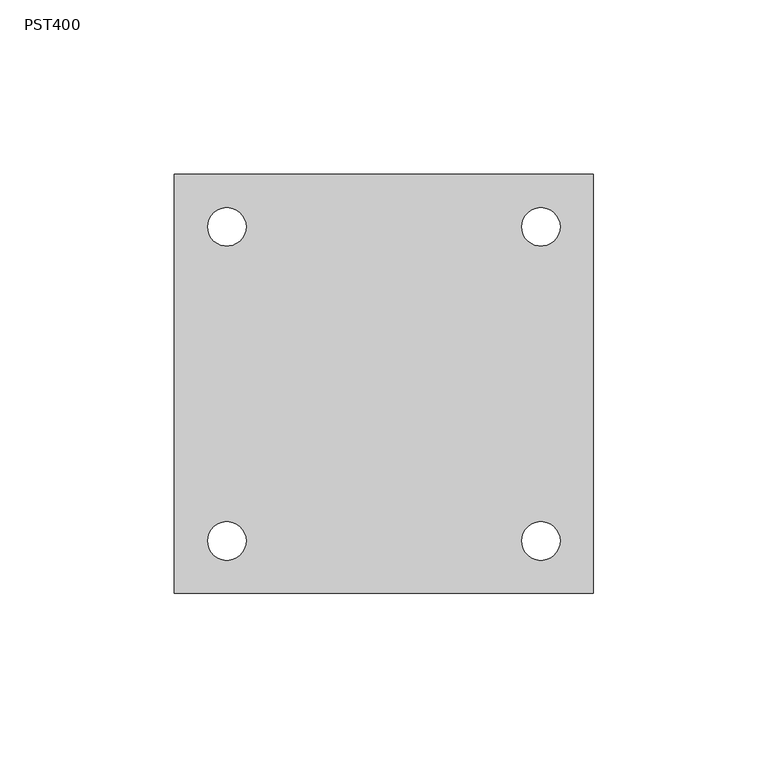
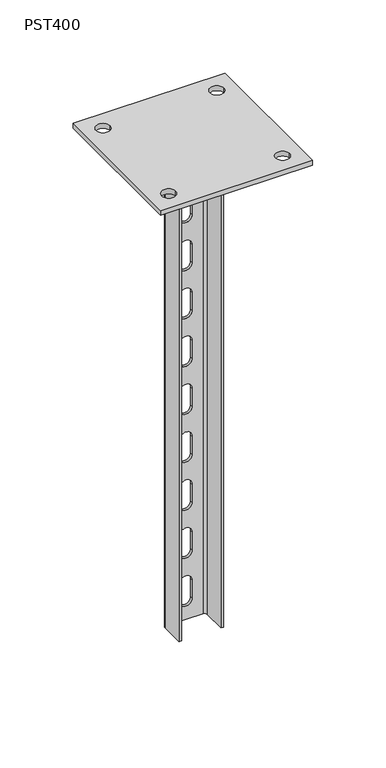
"""IFC4 building model written with IfcOpenShell, lengths in millimetres: proxy geometry, КМ Профиль_Стойка потолочная облегчённая PST : PST400."""

from ifc_helpers import new_model, si_unit, point, frame, frame_2d, origin, place, context, project, spatial, polyline, circle_curve, trimmed, segment, composite_curve, outline, extrude, source, transform, mapped, element, save
from ifc_brep_helpers import plane_surface, cylinder_surface, revolved_surface, advanced_brep


def pst400_6ce9062d(model_context):
    return source(origin(), model_context, "Body", "SolidModel", [
        advanced_brep(
        [(17.5, -11.5, -4.0), (17.5, 7.5, -4.0), (13.5, 11.5, -4.0), (-13.5, 11.5, -4.0), (-17.5, 7.5, -4.0), (-17.5, -11.5, -4.0), (-15.5, -11.5, -4.0), (-15.5, 7.5, -4.0), (-13.5, 9.5, -4.0), (13.5, 9.5, -4.0), (15.5, 7.5, -4.0), (15.5, -11.5, -4.0), (17.5, 7.5, -404.0), (17.5, -11.5, -404.0), (15.5, -11.5, -404.0), (15.5, 7.5, -404.0), (13.5, 9.5, -404.0), (-13.5, 9.5, -404.0), (-15.5, 7.5, -404.0), (-15.5, -11.5, -404.0), (-17.5, -11.5, -404.0), (-17.5, 7.5, -404.0), (-13.5, 11.5, -404.0), (13.5, 11.5, -404.0), (-5.0, 11.5, -53.0), (-5.0, 11.5, -68.0), (5.0, 11.5, -68.0), (5.0, 11.5, -53.0), (-5.0, 11.5, -93.0), (-5.0, 11.5, -108.0), (5.0, 11.5, -108.0), (5.0, 11.5, -93.0), (-5.0, 11.5, -133.0), (-5.0, 11.5, -148.0), (5.0, 11.5, -148.0), (5.0, 11.5, -133.0), (-5.0, 11.5, -173.0), (-5.0, 11.5, -188.0), (5.0, 11.5, -188.0), (5.0, 11.5, -173.0), (-5.0, 11.5, -213.0), (-5.0, 11.5, -228.0), (5.0, 11.5, -228.0), (5.0, 11.5, -213.0), (-5.0, 11.5, -13.0), (-5.0, 11.5, -28.0), (5.0, 11.5, -28.0), (5.0, 11.5, -13.0), (-5.0, 11.5, -253.0), (-5.0, 11.5, -268.0), (5.0, 11.5, -268.0), (5.0, 11.5, -253.0), (-5.0, 11.5, -293.0), (-5.0, 11.5, -308.0), (5.0, 11.5, -308.0), (5.0, 11.5, -293.0), (-5.0, 11.5, -333.0), (-5.0, 11.5, -348.0), (5.0, 11.5, -348.0), (5.0, 11.5, -333.0), (-5.0, 11.5, -373.0), (-5.0, 11.5, -388.0), (5.0, 11.5, -388.0), (5.0, 11.5, -373.0), (-5.0, 9.5, -68.0), (-5.0, 9.5, -53.0), (5.0, 9.5, -53.0), (5.0, 9.5, -68.0), (-5.0, 9.5, -108.0), (-5.0, 9.5, -93.0), (5.0, 9.5, -93.0), (5.0, 9.5, -108.0), (-5.0, 9.5, -148.0), (-5.0, 9.5, -133.0), (5.0, 9.5, -133.0), (5.0, 9.5, -148.0), (-5.0, 9.5, -188.0), (-5.0, 9.5, -173.0), (5.0, 9.5, -173.0), (5.0, 9.5, -188.0), (-5.0, 9.5, -228.0), (-5.0, 9.5, -213.0), (5.0, 9.5, -213.0), (5.0, 9.5, -228.0), (-5.0, 9.5, -28.0), (-5.0, 9.5, -13.0), (5.0, 9.5, -13.0), (5.0, 9.5, -28.0), (-5.0, 9.5, -268.0), (-5.0, 9.5, -253.0), (5.0, 9.5, -253.0), (5.0, 9.5, -268.0), (-5.0, 9.5, -308.0), (-5.0, 9.5, -293.0), (5.0, 9.5, -293.0), (5.0, 9.5, -308.0), (-5.0, 9.5, -348.0), (-5.0, 9.5, -333.0), (5.0, 9.5, -333.0), (5.0, 9.5, -348.0), (-5.0, 9.5, -388.0), (-5.0, 9.5, -373.0), (5.0, 9.5, -373.0), (5.0, 9.5, -388.0)],
        [
            (0, 1),
            (1, 2, circle_curve(frame((13.5, 7.5, -4.0), z_axis=(0.0, 0.0, 1.0), x_axis=(1.0, 0.0, 0.0)), 4.0)),
            (2, 3),
            (3, 4, circle_curve(frame((-13.5, 7.5, -4.0), z_axis=(0.0, 0.0, 1.0), x_axis=(1.0, 0.0, 0.0)), 4.0)),
            (4, 5),
            (5, 6),
            (6, 7),
            (7, 8, circle_curve(frame((-13.5, 7.5, -4.0), z_axis=(0.0, 0.0, -1.0), x_axis=(1.0, 0.0, 0.0)), 2.0)),
            (8, 9),
            (9, 10, circle_curve(frame((13.5, 7.5, -4.0), z_axis=(0.0, 0.0, -1.0), x_axis=(1.0, 0.0, 0.0)), 2.0)),
            (10, 11),
            (11, 0),
            (12, 13),
            (13, 14),
            (14, 15),
            (15, 16, circle_curve(frame((13.5, 7.5, -404.0), z_axis=(0.0, 0.0, 1.0), x_axis=(1.0, 0.0, 0.0)), 2.0)),
            (16, 17),
            (17, 18, circle_curve(frame((-13.5, 7.5, -404.0), z_axis=(0.0, 0.0, 1.0), x_axis=(1.0, 0.0, 0.0)), 2.0)),
            (18, 19),
            (19, 20),
            (20, 21),
            (21, 22, circle_curve(frame((-13.5, 7.5, -404.0), z_axis=(0.0, 0.0, -1.0), x_axis=(1.0, 0.0, 0.0)), 4.0)),
            (22, 23),
            (23, 12, circle_curve(frame((13.5, 7.5, -404.0), z_axis=(0.0, 0.0, -1.0), x_axis=(1.0, 0.0, 0.0)), 4.0)),
            (0, 13),
            (12, 1),
            (23, 2),
            (22, 3),
            (24, 25),
            (25, 26, circle_curve(frame((0.0, 11.5, -68.0), z_axis=(0.0, -1.0, 0.0), x_axis=(0.0, 0.0, -1.0)), 5.0)),
            (26, 27),
            (27, 24, circle_curve(frame((0.0, 11.5, -53.0), z_axis=(0.0, -1.0, 0.0), x_axis=(0.0, 0.0, -1.0)), 5.0)),
            (28, 29),
            (29, 30, circle_curve(frame((0.0, 11.5, -108.0), z_axis=(0.0, -1.0, 0.0), x_axis=(0.0, 0.0, -1.0)), 5.0)),
            (30, 31),
            (31, 28, circle_curve(frame((0.0, 11.5, -93.0), z_axis=(0.0, -1.0, 0.0), x_axis=(0.0, 0.0, -1.0)), 5.0)),
            (32, 33),
            (33, 34, circle_curve(frame((0.0, 11.5, -148.0), z_axis=(0.0, -1.0, 0.0), x_axis=(0.0, 0.0, -1.0)), 5.0)),
            (34, 35),
            (35, 32, circle_curve(frame((0.0, 11.5, -133.0), z_axis=(0.0, -1.0, 0.0), x_axis=(0.0, 0.0, -1.0)), 5.0)),
            (36, 37),
            (37, 38, circle_curve(frame((0.0, 11.5, -188.0), z_axis=(0.0, -1.0, 0.0), x_axis=(0.0, 0.0, -1.0)), 5.0)),
            (38, 39),
            (39, 36, circle_curve(frame((0.0, 11.5, -173.0), z_axis=(0.0, -1.0, 0.0), x_axis=(0.0, 0.0, -1.0)), 5.0)),
            (40, 41),
            (41, 42, circle_curve(frame((0.0, 11.5, -228.0), z_axis=(0.0, -1.0, 0.0), x_axis=(0.0, 0.0, -1.0)), 5.0)),
            (42, 43),
            (43, 40, circle_curve(frame((0.0, 11.5, -213.0), z_axis=(0.0, -1.0, 0.0), x_axis=(0.0, 0.0, -1.0)), 5.0)),
            (44, 45),
            (45, 46, circle_curve(frame((0.0, 11.5, -28.0), z_axis=(0.0, -1.0, 0.0), x_axis=(0.0, 0.0, -1.0)), 5.0)),
            (46, 47),
            (47, 44, circle_curve(frame((0.0, 11.5, -13.0), z_axis=(0.0, -1.0, 0.0), x_axis=(0.0, 0.0, -1.0)), 5.0)),
            (48, 49),
            (49, 50, circle_curve(frame((0.0, 11.5, -268.0), z_axis=(0.0, -1.0, 0.0), x_axis=(0.0, 0.0, -1.0)), 5.0)),
            (50, 51),
            (51, 48, circle_curve(frame((0.0, 11.5, -253.0), z_axis=(0.0, -1.0, 0.0), x_axis=(0.0, 0.0, -1.0)), 5.0)),
            (52, 53),
            (53, 54, circle_curve(frame((0.0, 11.5, -308.0), z_axis=(0.0, -1.0, 0.0), x_axis=(0.0, 0.0, -1.0)), 5.0)),
            (54, 55),
            (55, 52, circle_curve(frame((0.0, 11.5, -293.0), z_axis=(0.0, -1.0, 0.0), x_axis=(0.0, 0.0, -1.0)), 5.0)),
            (56, 57),
            (57, 58, circle_curve(frame((0.0, 11.5, -348.0), z_axis=(0.0, -1.0, 0.0), x_axis=(0.0, 0.0, -1.0)), 5.0)),
            (58, 59),
            (59, 56, circle_curve(frame((0.0, 11.5, -333.0), z_axis=(0.0, -1.0, 0.0), x_axis=(0.0, 0.0, -1.0)), 5.0)),
            (60, 61),
            (61, 62, circle_curve(frame((0.0, 11.5, -388.0), z_axis=(0.0, -1.0, 0.0), x_axis=(0.0, 0.0, -1.0)), 5.0)),
            (62, 63),
            (63, 60, circle_curve(frame((0.0, 11.5, -373.0), z_axis=(0.0, -1.0, 0.0), x_axis=(0.0, 0.0, -1.0)), 5.0)),
            (21, 4),
            (20, 5),
            (19, 6),
            (18, 7),
            (17, 8),
            (16, 9),
            (64, 65),
            (65, 66, circle_curve(frame((0.0, 9.5, -53.0), z_axis=(0.0, 1.0, 0.0), x_axis=(0.0, 0.0, -1.0)), 5.0)),
            (66, 67),
            (67, 64, circle_curve(frame((0.0, 9.5, -68.0), z_axis=(0.0, 1.0, 0.0), x_axis=(0.0, 0.0, -1.0)), 5.0)),
            (68, 69),
            (69, 70, circle_curve(frame((0.0, 9.5, -93.0), z_axis=(0.0, 1.0, 0.0), x_axis=(0.0, 0.0, -1.0)), 5.0)),
            (70, 71),
            (71, 68, circle_curve(frame((0.0, 9.5, -108.0), z_axis=(0.0, 1.0, 0.0), x_axis=(0.0, 0.0, -1.0)), 5.0)),
            (72, 73),
            (73, 74, circle_curve(frame((0.0, 9.5, -133.0), z_axis=(0.0, 1.0, 0.0), x_axis=(0.0, 0.0, -1.0)), 5.0)),
            (74, 75),
            (75, 72, circle_curve(frame((0.0, 9.5, -148.0), z_axis=(0.0, 1.0, 0.0), x_axis=(0.0, 0.0, -1.0)), 5.0)),
            (76, 77),
            (77, 78, circle_curve(frame((0.0, 9.5, -173.0), z_axis=(0.0, 1.0, 0.0), x_axis=(0.0, 0.0, -1.0)), 5.0)),
            (78, 79),
            (79, 76, circle_curve(frame((0.0, 9.5, -188.0), z_axis=(0.0, 1.0, 0.0), x_axis=(0.0, 0.0, -1.0)), 5.0)),
            (80, 81),
            (81, 82, circle_curve(frame((0.0, 9.5, -213.0), z_axis=(0.0, 1.0, 0.0), x_axis=(0.0, 0.0, -1.0)), 5.0)),
            (82, 83),
            (83, 80, circle_curve(frame((0.0, 9.5, -228.0), z_axis=(0.0, 1.0, 0.0), x_axis=(0.0, 0.0, -1.0)), 5.0)),
            (84, 85),
            (85, 86, circle_curve(frame((0.0, 9.5, -13.0), z_axis=(0.0, 1.0, 0.0), x_axis=(0.0, 0.0, -1.0)), 5.0)),
            (86, 87),
            (87, 84, circle_curve(frame((0.0, 9.5, -28.0), z_axis=(0.0, 1.0, 0.0), x_axis=(0.0, 0.0, -1.0)), 5.0)),
            (88, 89),
            (89, 90, circle_curve(frame((0.0, 9.5, -253.0), z_axis=(0.0, 1.0, 0.0), x_axis=(0.0, 0.0, -1.0)), 5.0)),
            (90, 91),
            (91, 88, circle_curve(frame((0.0, 9.5, -268.0), z_axis=(0.0, 1.0, 0.0), x_axis=(0.0, 0.0, -1.0)), 5.0)),
            (92, 93),
            (93, 94, circle_curve(frame((0.0, 9.5, -293.0), z_axis=(0.0, 1.0, 0.0), x_axis=(0.0, 0.0, -1.0)), 5.0)),
            (94, 95),
            (95, 92, circle_curve(frame((0.0, 9.5, -308.0), z_axis=(0.0, 1.0, 0.0), x_axis=(0.0, 0.0, -1.0)), 5.0)),
            (96, 97),
            (97, 98, circle_curve(frame((0.0, 9.5, -333.0), z_axis=(0.0, 1.0, 0.0), x_axis=(0.0, 0.0, -1.0)), 5.0)),
            (98, 99),
            (99, 96, circle_curve(frame((0.0, 9.5, -348.0), z_axis=(0.0, 1.0, 0.0), x_axis=(0.0, 0.0, -1.0)), 5.0)),
            (100, 101),
            (101, 102, circle_curve(frame((0.0, 9.5, -373.0), z_axis=(0.0, 1.0, 0.0), x_axis=(0.0, 0.0, -1.0)), 5.0)),
            (102, 103),
            (103, 100, circle_curve(frame((0.0, 9.5, -388.0), z_axis=(0.0, 1.0, 0.0), x_axis=(0.0, 0.0, -1.0)), 5.0)),
            (15, 10),
            (14, 11),
            (24, 65),
            (64, 25),
            (27, 66),
            (26, 67),
            (28, 69),
            (68, 29),
            (31, 70),
            (30, 71),
            (32, 73),
            (72, 33),
            (35, 74),
            (34, 75),
            (36, 77),
            (76, 37),
            (39, 78),
            (38, 79),
            (40, 81),
            (80, 41),
            (43, 82),
            (42, 83),
            (44, 85),
            (84, 45),
            (47, 86),
            (46, 87),
            (48, 89),
            (88, 49),
            (51, 90),
            (50, 91),
            (52, 93),
            (92, 53),
            (55, 94),
            (54, 95),
            (56, 97),
            (96, 57),
            (59, 98),
            (58, 99),
            (60, 101),
            (100, 61),
            (63, 102),
            (62, 103),
        ],
        [
            plane_surface(frame((17.5, 70.8587358, -4.0), z_axis=(0.0, 0.0, 1.0), x_axis=(0.0, 1.0, 0.0))),
            plane_surface(frame((17.5, 70.8587358, -404.0), z_axis=(0.0, 0.0, -1.0), x_axis=(0.0, -1.0, 0.0))),
            plane_surface(frame((17.5, -11.5, -4.0), z_axis=(1.0, 0.0, 0.0), x_axis=(0.0, 0.0, -1.0))),
            cylinder_surface(frame((13.5, 7.5, -404.0), z_axis=(0.0, 0.0, 1.0), x_axis=(1.0, 0.0, 0.0)), 4.0),
            plane_surface(frame((13.5, 11.5, -4.0), z_axis=(0.0, 1.0, 0.0), x_axis=(0.0, 0.0, -1.0))),
            cylinder_surface(frame((-13.5, 7.5, -404.0), z_axis=(0.0, 0.0, 1.0), x_axis=(1.0, 0.0, 0.0)), 4.0),
            plane_surface(frame((-17.5, 7.5, -4.0), z_axis=(-1.0, 0.0, 0.0), x_axis=(0.0, 0.0, -1.0))),
            plane_surface(frame((-17.5, -11.5, -4.0), z_axis=(0.0, -1.0, 0.0), x_axis=(0.0, 0.0, -1.0))),
            plane_surface(frame((-15.5, -11.5, -4.0), z_axis=(1.0, 0.0, 0.0), x_axis=(0.0, 0.0, -1.0))),
            revolved_surface(polyline([(-11.5, 7.5, -404.0), (-11.5, 7.5, -4.0)]), (-13.5, 7.5, -404.0), (0.0, 0.0, -1.0)),
            plane_surface(frame((-13.5, 9.5, -4.0), z_axis=(0.0, -1.0, 0.0), x_axis=(0.0, 0.0, -1.0))),
            revolved_surface(polyline([(15.5, 7.5, -404.0), (15.5, 7.5, -4.0)]), (13.5, 7.5, -404.0), (0.0, 0.0, -1.0)),
            plane_surface(frame((15.5, 7.5, -4.0), z_axis=(-1.0, 0.0, 0.0), x_axis=(0.0, 0.0, -1.0))),
            plane_surface(frame((15.5, -11.5, -4.0), z_axis=(0.0, -1.0, 0.0), x_axis=(0.0, 0.0, -1.0))),
            plane_surface(frame((-5.0, 11.5, -68.0), z_axis=(1.0, 0.0, 0.0), x_axis=(0.0, -1.0, 0.0))),
            revolved_surface(polyline([(0.0, 11.5, -58.0), (0.0, 9.5, -58.0)]), (0.0, 9.5, -53.0), (0.0, 1.0, 0.0)),
            plane_surface(frame((5.0, 11.5, -53.0), z_axis=(-1.0, 0.0, 0.0), x_axis=(0.0, -1.0, 0.0))),
            revolved_surface(polyline([(0.0, 11.5, -73.0), (0.0, 9.5, -73.0)]), (0.0, 9.5, -68.0), (0.0, 1.0, 0.0)),
            plane_surface(frame((-5.0, 11.5, -108.0), z_axis=(1.0, 0.0, 0.0), x_axis=(0.0, -1.0, 0.0))),
            revolved_surface(polyline([(0.0, 11.5, -98.0), (0.0, 9.5, -98.0)]), (0.0, 9.5, -93.0), (0.0, 1.0, 0.0)),
            plane_surface(frame((5.0, 11.5, -93.0), z_axis=(-1.0, 0.0, 0.0), x_axis=(0.0, -1.0, 0.0))),
            revolved_surface(polyline([(0.0, 11.5, -113.0), (0.0, 9.5, -113.0)]), (0.0, 9.5, -108.0), (0.0, 1.0, 0.0)),
            plane_surface(frame((-5.0, 11.5, -148.0), z_axis=(1.0, 0.0, 0.0), x_axis=(0.0, -1.0, 0.0))),
            revolved_surface(polyline([(0.0, 11.5, -138.0), (0.0, 9.5, -138.0)]), (0.0, 9.5, -133.0), (0.0, 1.0, 0.0)),
            plane_surface(frame((5.0, 11.5, -133.0), z_axis=(-1.0, 0.0, 0.0), x_axis=(0.0, -1.0, 0.0))),
            revolved_surface(polyline([(0.0, 11.5, -153.0), (0.0, 9.5, -153.0)]), (0.0, 9.5, -148.0), (0.0, 1.0, 0.0)),
            plane_surface(frame((-5.0, 11.5, -188.0), z_axis=(1.0, 0.0, 0.0), x_axis=(0.0, -1.0, 0.0))),
            revolved_surface(polyline([(0.0, 11.5, -178.0), (0.0, 9.5, -178.0)]), (0.0, 9.5, -173.0), (0.0, 1.0, 0.0)),
            plane_surface(frame((5.0, 11.5, -173.0), z_axis=(-1.0, 0.0, 0.0), x_axis=(0.0, -1.0, 0.0))),
            revolved_surface(polyline([(0.0, 11.5, -193.0), (0.0, 9.5, -193.0)]), (0.0, 9.5, -188.0), (0.0, 1.0, 0.0)),
            plane_surface(frame((-5.0, 11.5, -228.0), z_axis=(1.0, 0.0, 0.0), x_axis=(0.0, -1.0, 0.0))),
            revolved_surface(polyline([(0.0, 11.5, -218.0), (0.0, 9.5, -218.0)]), (0.0, 9.5, -213.0), (0.0, 1.0, 0.0)),
            plane_surface(frame((5.0, 11.5, -213.0), z_axis=(-1.0, 0.0, 0.0), x_axis=(0.0, -1.0, 0.0))),
            revolved_surface(polyline([(0.0, 11.5, -233.0), (0.0, 9.5, -233.0)]), (0.0, 9.5, -228.0), (0.0, 1.0, 0.0)),
            plane_surface(frame((-5.0, 11.5, -28.0), z_axis=(1.0, 0.0, 0.0), x_axis=(0.0, -1.0, 0.0))),
            revolved_surface(polyline([(0.0, 11.5, -18.0), (0.0, 9.5, -18.0)]), (0.0, 9.5, -13.0), (0.0, 1.0, 0.0)),
            plane_surface(frame((5.0, 11.5, -13.0), z_axis=(-1.0, 0.0, 0.0), x_axis=(0.0, -1.0, 0.0))),
            revolved_surface(polyline([(0.0, 11.5, -33.0), (0.0, 9.5, -33.0)]), (0.0, 9.5, -28.0), (0.0, 1.0, 0.0)),
            plane_surface(frame((-5.0, 11.5, -268.0), z_axis=(1.0, 0.0, 0.0), x_axis=(0.0, -1.0, 0.0))),
            revolved_surface(polyline([(0.0, 11.5, -258.0), (0.0, 9.5, -258.0)]), (0.0, 9.5, -253.0), (0.0, 1.0, 0.0)),
            plane_surface(frame((5.0, 11.5, -253.0), z_axis=(-1.0, 0.0, 0.0), x_axis=(0.0, -1.0, 0.0))),
            revolved_surface(polyline([(0.0, 11.5, -273.0), (0.0, 9.5, -273.0)]), (0.0, 9.5, -268.0), (0.0, 1.0, 0.0)),
            plane_surface(frame((-5.0, 11.5, -308.0), z_axis=(1.0, 0.0, 0.0), x_axis=(0.0, -1.0, 0.0))),
            revolved_surface(polyline([(0.0, 11.5, -298.0), (0.0, 9.5, -298.0)]), (0.0, 9.5, -293.0), (0.0, 1.0, 0.0)),
            plane_surface(frame((5.0, 11.5, -293.0), z_axis=(-1.0, 0.0, 0.0), x_axis=(0.0, -1.0, 0.0))),
            revolved_surface(polyline([(0.0, 11.5, -313.0), (0.0, 9.5, -313.0)]), (0.0, 9.5, -308.0), (0.0, 1.0, 0.0)),
            plane_surface(frame((-5.0, 11.5, -348.0), z_axis=(1.0, 0.0, 0.0), x_axis=(0.0, -1.0, 0.0))),
            revolved_surface(polyline([(0.0, 11.5, -338.0), (0.0, 9.5, -338.0)]), (0.0, 9.5, -333.0), (0.0, 1.0, 0.0)),
            plane_surface(frame((5.0, 11.5, -333.0), z_axis=(-1.0, 0.0, 0.0), x_axis=(0.0, -1.0, 0.0))),
            revolved_surface(polyline([(0.0, 11.5, -353.0), (0.0, 9.5, -353.0)]), (0.0, 9.5, -348.0), (0.0, 1.0, 0.0)),
            plane_surface(frame((-5.0, 11.5, -388.0), z_axis=(1.0, 0.0, 0.0), x_axis=(0.0, -1.0, 0.0))),
            revolved_surface(polyline([(0.0, 11.5, -378.0), (0.0, 9.5, -378.0)]), (0.0, 9.5, -373.0), (0.0, 1.0, 0.0)),
            plane_surface(frame((5.0, 11.5, -373.0), z_axis=(-1.0, 0.0, 0.0), x_axis=(0.0, -1.0, 0.0))),
            revolved_surface(polyline([(0.0, 11.5, -393.0), (0.0, 9.5, -393.0)]), (0.0, 9.5, -388.0), (0.0, 1.0, 0.0)),
        ],
        [
            (0, [[1, 2, 3, 4, 5, 6, 7, 8, 9, 10, 11, 12]]),
            (1, [[13, 14, 15, 16, 17, 18, 19, 20, 21, 22, 23, 24]]),
            (2, [[-1, 25, -13, 26]]),
            (3, [[-2, -26, -24, 27]]),
            (4, [[-3, -27, -23, 28], [29, 30, 31, 32], [33, 34, 35, 36], [37, 38, 39, 40], [41, 42, 43, 44], [45, 46, 47, 48], [49, 50, 51, 52], [53, 54, 55, 56], [57, 58, 59, 60], [61, 62, 63, 64], [65, 66, 67, 68]]),
            (5, [[-4, -28, -22, 69]]),
            (6, [[-5, -69, -21, 70]]),
            (7, [[-6, -70, -20, 71]]),
            (8, [[-7, -71, -19, 72]]),
            (9, [[-8, -72, -18, 73]]),
            (10, [[-9, -73, -17, 74], [75, 76, 77, 78], [79, 80, 81, 82], [83, 84, 85, 86], [87, 88, 89, 90], [91, 92, 93, 94], [95, 96, 97, 98], [99, 100, 101, 102], [103, 104, 105, 106], [107, 108, 109, 110], [111, 112, 113, 114]]),
            (11, [[-10, -74, -16, 115]]),
            (12, [[-11, -115, -15, 116]]),
            (13, [[-12, -116, -14, -25]]),
            (14, [[117, -75, 118, -29]]),
            (15, [[-117, -32, 119, -76]]),
            (16, [[-119, -31, 120, -77]]),
            (17, [[-118, -78, -120, -30]]),
            (18, [[121, -79, 122, -33]]),
            (19, [[-121, -36, 123, -80]]),
            (20, [[-123, -35, 124, -81]]),
            (21, [[-122, -82, -124, -34]]),
            (22, [[125, -83, 126, -37]]),
            (23, [[-125, -40, 127, -84]]),
            (24, [[-127, -39, 128, -85]]),
            (25, [[-126, -86, -128, -38]]),
            (26, [[129, -87, 130, -41]]),
            (27, [[-129, -44, 131, -88]]),
            (28, [[-131, -43, 132, -89]]),
            (29, [[-130, -90, -132, -42]]),
            (30, [[133, -91, 134, -45]]),
            (31, [[-133, -48, 135, -92]]),
            (32, [[-135, -47, 136, -93]]),
            (33, [[-134, -94, -136, -46]]),
            (34, [[137, -95, 138, -49]]),
            (35, [[-137, -52, 139, -96]]),
            (36, [[-139, -51, 140, -97]]),
            (37, [[-138, -98, -140, -50]]),
            (38, [[141, -99, 142, -53]]),
            (39, [[-141, -56, 143, -100]]),
            (40, [[-143, -55, 144, -101]]),
            (41, [[-142, -102, -144, -54]]),
            (42, [[145, -103, 146, -57]]),
            (43, [[-145, -60, 147, -104]]),
            (44, [[-147, -59, 148, -105]]),
            (45, [[-146, -106, -148, -58]]),
            (46, [[149, -107, 150, -61]]),
            (47, [[-149, -64, 151, -108]]),
            (48, [[-151, -63, 152, -109]]),
            (49, [[-150, -110, -152, -62]]),
            (50, [[153, -111, 154, -65]]),
            (51, [[-153, -68, 155, -112]]),
            (52, [[-155, -67, 156, -113]]),
            (53, [[-154, -114, -156, -66]]),
        ],
    ),
        extrude(outline(polyline([(-60.0, 60.0), (60.0, 60.0), (60.0, -60.0), (-60.0, -60.0), (-60.0, 60.0)]), holes=[composite_curve([segment(trimmed(circle_curve(frame_2d((-45.0, 45.0)), 5.5), [point((-50.5, 45.0))], [point((-39.5, 45.0))], True, "CARTESIAN"), True, "CONTINUOUS"), segment(trimmed(circle_curve(frame_2d((-45.0, 45.0)), 5.5), [point((-39.5, 45.0))], [point((-50.5, 45.0))], True, "CARTESIAN"), True, "CONTINUOUS")], self_intersect=False), composite_curve([segment(trimmed(circle_curve(frame_2d((45.0, 45.0)), 5.5), [point((39.5, 45.0))], [point((50.5, 45.0))], True, "CARTESIAN"), True, "CONTINUOUS"), segment(trimmed(circle_curve(frame_2d((45.0, 45.0)), 5.5), [point((50.5, 45.0))], [point((39.5, 45.0))], True, "CARTESIAN"), True, "CONTINUOUS")], self_intersect=False), composite_curve([segment(trimmed(circle_curve(frame_2d((45.0, -45.0)), 5.5), [point((39.5, -45.0))], [point((50.5, -45.0))], True, "CARTESIAN"), True, "CONTINUOUS"), segment(trimmed(circle_curve(frame_2d((45.0, -45.0)), 5.5), [point((50.5, -45.0))], [point((39.5, -45.0))], True, "CARTESIAN"), True, "CONTINUOUS")], self_intersect=False), composite_curve([segment(trimmed(circle_curve(frame_2d((-45.0, -45.0)), 5.5), [point((-50.5, -45.0))], [point((-39.5, -45.0))], True, "CARTESIAN"), True, "CONTINUOUS"), segment(trimmed(circle_curve(frame_2d((-45.0, -45.0)), 5.5), [point((-39.5, -45.0))], [point((-50.5, -45.0))], True, "CARTESIAN"), True, "CONTINUOUS")], self_intersect=False)]), frame((0.0, 0.0, -4.0), z_axis=(0.0, 0.0, 1.0), x_axis=(1.0, 0.0, 0.0)), (0.0, 0.0, 1.0), 4.0),
    ])


if __name__ == "__main__":
    model = new_model("IFC4")
    model_context = context("Model", 3, world=origin())
    ifc_project = project(units=[si_unit("LENGTHUNIT", "METRE", prefix="MILLI")], contexts=[model_context])
    site = spatial("IfcSite", under=ifc_project)
    building = spatial("IfcBuilding", under=site)
    placement = place(None, origin())
    pst400_shape = pst400_6ce9062d(model_context)
    element("IfcBuildingElementProxy", 1, Name="КМ Профиль_Стойка потолочная облегчённая PST : PST400", ObjectType="КМ Профиль_Стойка потолочная облегчённая PST : PST400", at=placement, inside=building, context=model_context, shape_type="MappedRepresentation", body=[
        mapped(pst400_shape, transform((0.0, 0.0, 0.0), x_axis=(1.0, 0.0, 0.0), y_axis=(0.0, 1.0, 0.0), z_axis=(0.0, 0.0, 1.0))),
    ])
    save(model, "model.ifc")
